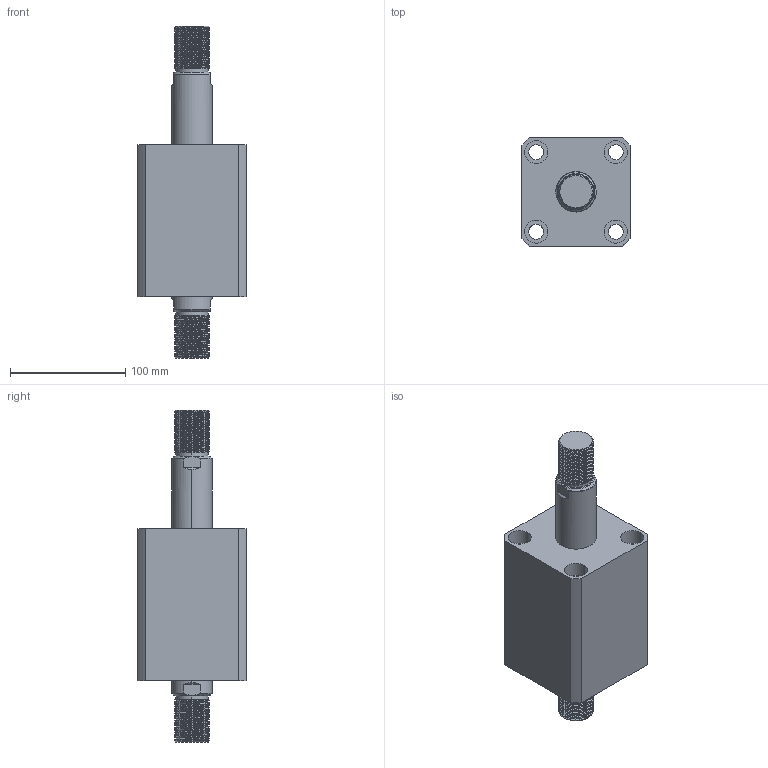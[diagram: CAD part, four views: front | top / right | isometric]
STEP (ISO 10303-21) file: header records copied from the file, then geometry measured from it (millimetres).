
FILE_DESCRIPTION (( 'STEP AP214' ), '1' );
FILE_NAME ('chtb-sw63x50w_asm.STEP', '2018-05-19T03:20:20', ( 'Windows' ), ( 'Microsoft' ), 'SwSTEP 2.0', 'SolidWorks 2015', '' );
FILE_SCHEMA (( 'AUTOMOTIVE_DESIGN' ));
Length unit declared in the file: millimetre
Products named in the file (4): CHTB-SW63X50WHSG; CHTB-SW63X50NBT; CHTB-63QG; chtb-sw63x50w_asm
Assembly tree (3 placements, depth 2):
  chtb-sw63x50w_asm
    CHTB-63QG
    CHTB-SW63X50NBT
    CHTB-SW63X50WHSG
Bounding box: 94 x 94 x 288 mm (x, y, z)
Volume: 1079343.9 mm3; surface area: 175780.7 mm2
Topology: 3 solids, 3 shells, 296 faces, 841 edges, 569 vertices
Faces by surface type: cylinder 206, plane 46, bspline 16, cone 16, torus 12
Entity records: 27380 total; most frequent: CARTESIAN_POINT 20442, ORIENTED_EDGE 1674, DIRECTION 1166, EDGE_CURVE 837, VERTEX_POINT 569, AXIS2_PLACEMENT_3D 453, EDGE_LOOP 334, ADVANCED_FACE 296
